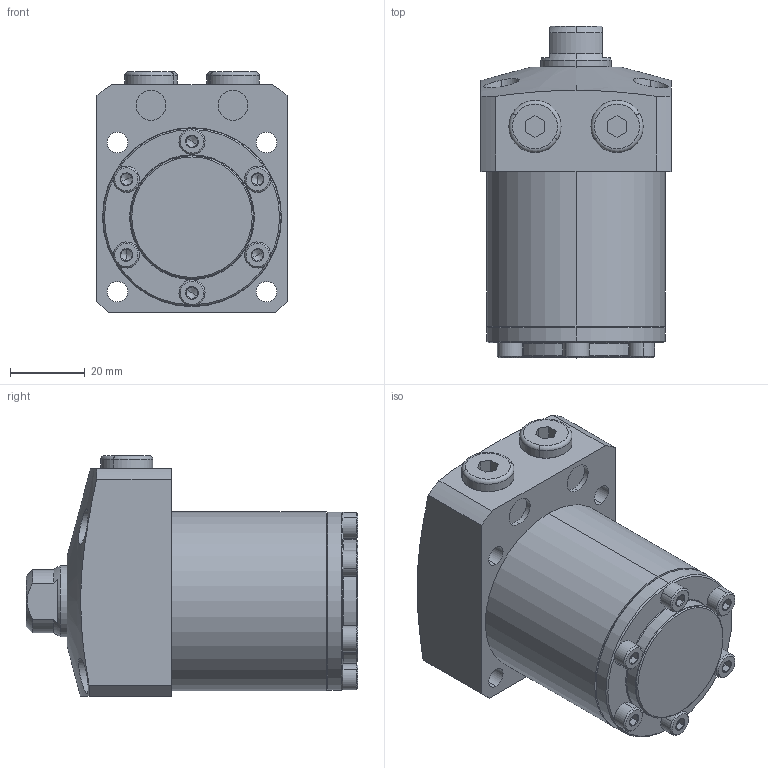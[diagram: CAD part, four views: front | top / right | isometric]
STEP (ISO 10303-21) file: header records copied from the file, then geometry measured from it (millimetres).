
FILE_DESCRIPTION (( 'STEP AP203' ), '1' );
FILE_NAME ('680480-CA-040.STEP', '2019-11-06T04:36:51', ( '微软用户' ), ( '微软中国' ), 'SwSTEP 2.0', 'SolidWorks 2014', '' );
FILE_SCHEMA (( 'CONFIG_CONTROL_DESIGN' ));
Length unit declared in the file: millimetre
Products named in the file (6): 葩璃 680480-CA-15-4^680480-CA-040; 葩璃 680480-CA-15-5^680480-CA-040; 680480-CA-040; 葩璃 680480-CA-15-1^680480-CA-040; 葩璃 680480-CA-15-2^680480-CA-040; 葩璃 680480-CA-15-3^680480-CA-040
Assembly tree (11 placements, depth 2):
  680480-CA-040
    葩璃 680480-CA-15-1^680480-CA-040
    葩璃 680480-CA-15-2^680480-CA-040
    葩璃 680480-CA-15-3^680480-CA-040
    葩璃 680480-CA-15-4^680480-CA-040  x6
    葩璃 680480-CA-15-5^680480-CA-040  x2
Bounding box: 51 x 89 x 64.5 mm (x, y, z)
Volume: 170915.1 mm3; surface area: 32953.6 mm2
Topology: 11 solids, 11 shells, 345 faces, 675 edges, 370 vertices
Faces by surface type: plane 140, cone 96, cylinder 93, torus 16
Entity records: 5671 total; most frequent: CARTESIAN_POINT 1180, DIRECTION 859, ORIENTED_EDGE 698, AXIS2_PLACEMENT_3D 360, EDGE_CURVE 349, VERTEX_POINT 213, EDGE_LOOP 202, CIRCLE 182
